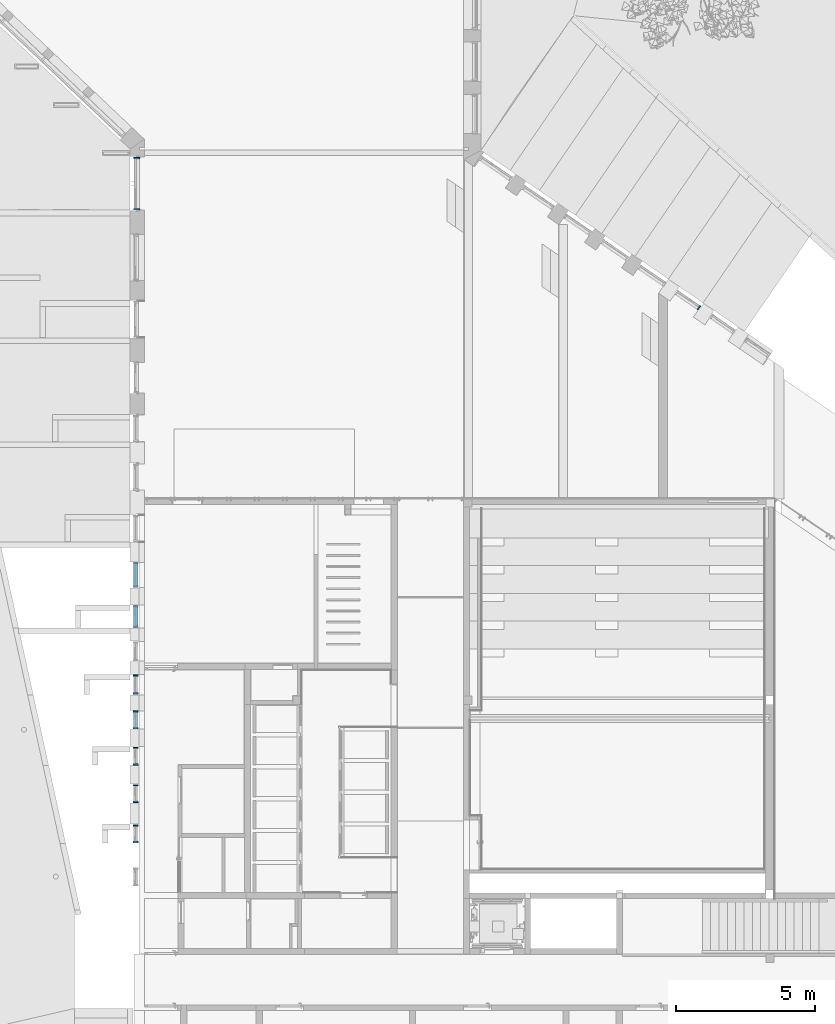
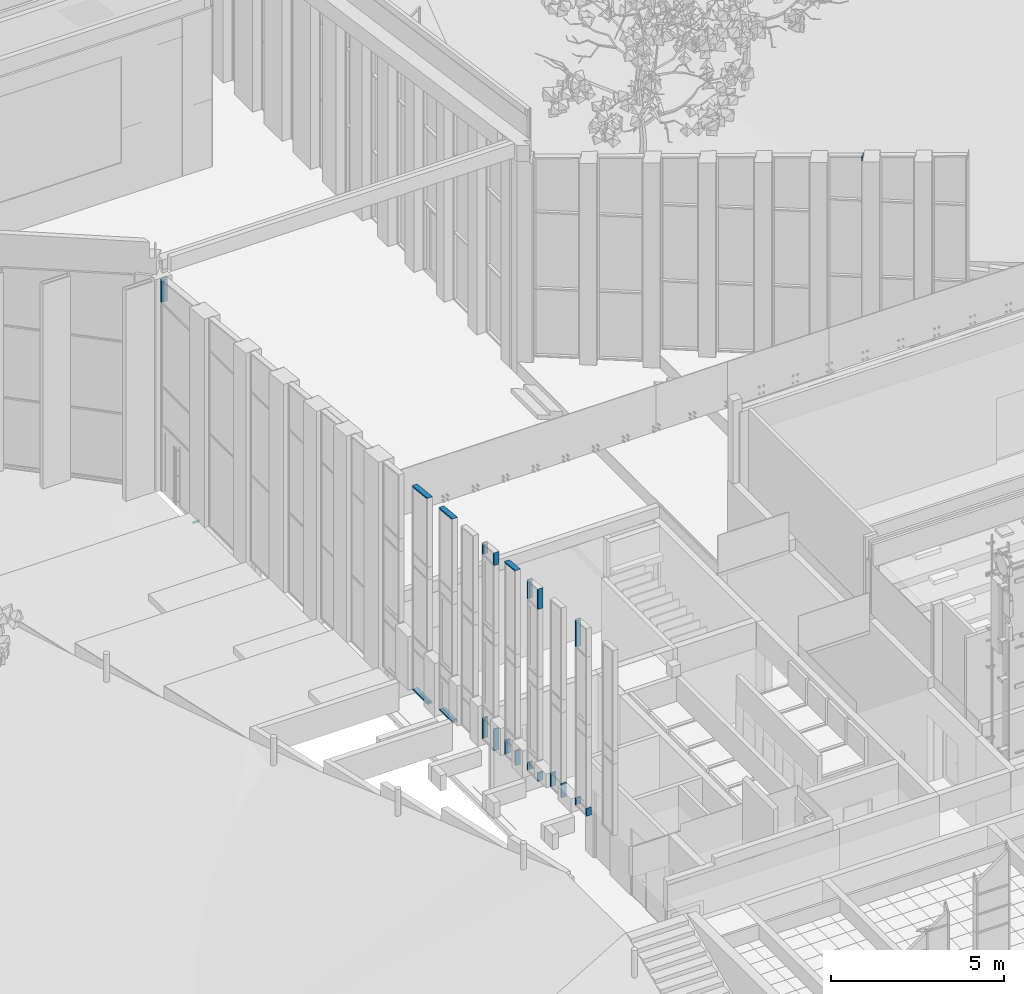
# One storey, part 84 of 246: 23 members, 9 elements without a shape of their own.
"""IFC2X3 building model written with IfcOpenShell, lengths in millimetres."""

from ifc_helpers import new_model, entity, si_unit, converted_unit, derived_unit, money_unit, direction, frame, origin_with_axes, place, context, subcontext, project, spatial, faceted_brep, material, type_object, element, aggregate, save


model = new_model("IFC2X3")

# Units and contexts
model_context = context("Model", 3, precision=0.01, world=origin_with_axes(), true_north=direction((0.0, 1.0)))
body_context = subcontext(model_context, "Body", "Model", "MODEL_VIEW")
ifc_project = project(units=[si_unit("LENGTHUNIT", "METRE", prefix="MILLI"), si_unit("AREAUNIT", "SQUARE_METRE"), si_unit("VOLUMEUNIT", "CUBIC_METRE"), converted_unit("PLANEANGLEUNIT", "DEGREE", entity("IfcPlaneAngleMeasure", 0.0174532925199), si_unit("PLANEANGLEUNIT", "RADIAN"), dimensions=[0, 0, 0, 0, 0, 0, 0]), si_unit("SOLIDANGLEUNIT", "STERADIAN"), money_unit("EUR"), converted_unit("TIMEUNIT", "Year", entity("IfcTimeMeasure", 31556926.0), si_unit("TIMEUNIT", "SECOND"), dimensions=[0, 0, 1, 0, 0, 0, 0]), si_unit("MASSUNIT", "GRAM", prefix="KILO"), si_unit("THERMODYNAMICTEMPERATUREUNIT", "DEGREE_CELSIUS"), si_unit("LUMINOUSINTENSITYUNIT", "LUMEN"), si_unit("ENERGYUNIT", "JOULE", prefix="MEGA"), derived_unit("THERMALCONDUCTANCEUNIT", [(si_unit("POWERUNIT", "WATT"), 1), (si_unit("LENGTHUNIT", "METRE"), -1), (si_unit("THERMODYNAMICTEMPERATUREUNIT", "KELVIN"), -1)]), derived_unit("SPECIFICHEATCAPACITYUNIT", [(si_unit("ENERGYUNIT", "JOULE"), 1), (si_unit("MASSUNIT", "GRAM", prefix="KILO"), -1), (si_unit("THERMODYNAMICTEMPERATUREUNIT", "KELVIN"), -1)]), derived_unit("MASSDENSITYUNIT", [(si_unit("MASSUNIT", "GRAM", prefix="KILO"), 1), (si_unit("VOLUMEUNIT", "CUBIC_METRE"), -1)])], contexts=[model_context])

# Site, building, storey
site_placement = place(None, origin_with_axes())
site = spatial("IfcSite", under=ifc_project, at=site_placement, Name="L.Koidula tn 11b", CompositionType="ELEMENT")
building_placement = place(site_placement, origin_with_axes())
building = spatial("IfcBuilding", under=site, at=building_placement, Name="Rakvere Riigigümnaasium", CompositionType="ELEMENT")
storey_placement = place(building_placement, origin_with_axes())
storey = spatial("IfcBuildingStorey", under=building, at=storey_placement, Name="1.korrus 0,00", CompositionType="ELEMENT", Elevation=0.0)

# Curtain wall, members
curtain_wall_type = type_object("IfcCurtainWallType", Name="Curtain Wall Type", PredefinedType="NOTDEFINED")
curtain_wall_1_placement = place(storey_placement, frame((35156.0871538, 28760.4555979, 1840.0), z_axis=(0.0, 0.0, 1.0), x_axis=(1.0, 0.0, 0.0)))
curtain_wall_1 = element("IfcCurtainWall", 1, at=curtain_wall_1_placement, inside=storey, type_object=curtain_wall_type, Name="KLF-04-02")
ifc_material = material(Name="Alumiiniumprofiil (RAL 7021)")
member_type_1 = type_object("IfcMemberType", Name="Boundary Frame 50 x 170", PredefinedType="MULLION")
member_1_placement = place(curtain_wall_1_placement, frame((0.0, 449.999927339, 0.0), z_axis=(0.0, -1.0, 0.0), x_axis=(0.0, 0.0, 1.0)))
member_1 = element("IfcMember", 2, at=member_1_placement, type_object=member_type_1, material=ifc_material, Name="KLF-04-89-Profiilid", ObjectType="MULLION", context=body_context, shape_type="Brep", body=[
    faceted_brep([(37.0, -26.0, 862.999992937), (37.0, 26.0, 862.999992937), (50.0, 26.0, 849.999992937), (50.0, 46.0, 849.999992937), (0.0, 46.0, 899.999992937), (0.0, -124.0, 899.999992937), (50.0, -124.0, 849.999992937), (50.0, -26.0, 849.999992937), (37.0, -26.0, 37.0), (37.0, 26.0, 37.0), (50.0, 26.0, 50.0), (50.0, 46.0, 50.0), (0.0, 46.0, 0.0), (0.0, -124.0, 0.0), (50.0, -124.0, 50.0), (50.0, -26.0, 50.0)], [[[0, 1, 2, 3, 4, 5, 6, 7]], [[1, 0, 8, 9]], [[10, 2, 1, 9]], [[2, 10, 11, 3]], [[4, 3, 11, 12]], [[5, 4, 12, 13]], [[6, 5, 13, 14]], [[15, 7, 6, 14]], [[0, 7, 15, 8]], [[8, 15, 14, 13, 12, 11, 10, 9]]]),
])
member_2_placement = place(curtain_wall_1_placement, frame((0.0, -449.999546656, 7303.52125875), z_axis=(0.0, 0.994521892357, -0.104528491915), x_axis=(0.0, -0.104528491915, -0.994521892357)))
member_2 = element("IfcMember", 3, at=member_2_placement, type_object=member_type_1, material=ifc_material, Name="KLF-04-95-Profiilid", ObjectType="MULLION", context=body_context, shape_type="Brep", body=[
    faceted_brep([(37.0, -26.0, 871.64197677), (37.0, 26.0, 871.64197677), (50.0, 26.0, 859.936724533), (50.0, 46.0, 859.936724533), (0.0, 46.0, 904.956925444), (0.0, -124.0, 904.956925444), (50.0, -124.0, 859.936724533), (50.0, -26.0, 859.936724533), (37.0, -26.0, 41.0926583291), (37.0, 26.0, 41.0926583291), (50.0, 26.0, 55.5306193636), (50.0, 46.0, 55.5306193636), (0.0, 46.0, 0.0), (0.0, -124.0, 0.0), (50.0, -124.0, 55.5306193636), (50.0, -26.0, 55.5306193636)], [[[0, 1, 2, 3, 4, 5, 6, 7]], [[1, 0, 8, 9]], [[10, 2, 1, 9]], [[2, 10, 11, 3]], [[4, 3, 11, 12]], [[5, 4, 12, 13]], [[6, 5, 13, 14]], [[15, 7, 6, 14]], [[0, 7, 15, 8]], [[8, 15, 14, 13, 12, 11, 10, 9]]]),
])
aggregate(curtain_wall_1, [member_1, member_2])

curtain_wall_2_placement = place(storey_placement, frame((35156.0871538, 27260.4554897, 2070.0), z_axis=(0.0, 0.0, 1.0), x_axis=(1.0, 0.0, 0.0)))
curtain_wall_2 = element("IfcCurtainWall", 4, at=curtain_wall_2_placement, inside=storey, type_object=curtain_wall_type, Name="KLF-04-03")
member_3_placement = place(curtain_wall_2_placement, frame((0.0, 399.999995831, 0.0), z_axis=(0.0, -1.0, 0.0), x_axis=(0.0, 0.0, 1.0)))
member_3 = element("IfcMember", 5, at=member_3_placement, type_object=member_type_1, material=ifc_material, Name="KLF-04-41-Profiilid", ObjectType="MULLION", context=body_context, shape_type="Brep", body=[
    faceted_brep([(37.0, -26.0, 762.999991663), (37.0, 26.0, 762.999991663), (50.0, 26.0, 749.999991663), (50.0, 46.0, 749.999991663), (0.0, 46.0, 799.999991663), (0.0, -124.0, 799.999991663), (50.0, -124.0, 749.999991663), (50.0, -26.0, 749.999991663), (37.0, -26.0, 37.0), (37.0, 26.0, 37.0), (50.0, 26.0, 50.0), (50.0, 46.0, 50.0), (0.0, 46.0, 0.0), (0.0, -124.0, 0.0), (50.0, -124.0, 50.0), (50.0, -26.0, 50.0)], [[[0, 1, 2, 3, 4, 5, 6, 7]], [[1, 0, 8, 9]], [[10, 2, 1, 9]], [[2, 10, 11, 3]], [[4, 3, 11, 12]], [[5, 4, 12, 13]], [[6, 5, 13, 14]], [[15, 7, 6, 14]], [[0, 7, 15, 8]], [[8, 15, 14, 13, 12, 11, 10, 9]]]),
])
member_4_placement = place(curtain_wall_2_placement, frame((0.0, -399.999999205, 7225.92241029), z_axis=(0.0, 0.994521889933, -0.104528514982), x_axis=(0.0, -0.104528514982, -0.994521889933)))
member_4 = element("IfcMember", 6, at=member_4_placement, type_object=member_type_1, material=ifc_material, Name="KLF-04-47-Profiilid", ObjectType="MULLION", context=body_context, shape_type="Brep", body=[
    faceted_brep([(37.0, -26.0, 771.091698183), (37.0, 26.0, 771.091698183), (50.0, 26.0, 759.386446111), (50.0, 46.0, 759.386446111), (0.0, 46.0, 804.406646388), (0.0, -124.0, 804.406646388), (50.0, -124.0, 759.386446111), (50.0, -26.0, 759.386446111), (37.0, -26.0, 41.0926651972), (37.0, 26.0, 41.0926651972), (50.0, 26.0, 55.5306286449), (50.0, 46.0, 55.5306286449), (0.0, 46.0, 0.0), (0.0, -124.0, 0.0), (50.0, -124.0, 55.5306286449), (50.0, -26.0, 55.5306286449)], [[[0, 1, 2, 3, 4, 5, 6, 7]], [[1, 0, 8, 9]], [[10, 2, 1, 9]], [[2, 10, 11, 3]], [[4, 3, 11, 12]], [[5, 4, 12, 13]], [[6, 5, 13, 14]], [[15, 7, 6, 14]], [[0, 7, 15, 8]], [[8, 15, 14, 13, 12, 11, 10, 9]]]),
])
aggregate(curtain_wall_2, [member_3, member_4])

# Curtain wall, member
curtain_wall_3_placement = place(storey_placement, frame((55097.3440674, 38688.315244, 1395.00000109), z_axis=(0.0, 0.0, 1.0), x_axis=(1.0, 0.0, 0.0)))
curtain_wall_3 = element("IfcCurtainWall", 7, at=curtain_wall_3_placement, inside=storey, type_object=curtain_wall_type, Name="KLF-06-24")
member_5_placement = place(curtain_wall_3_placement, frame((418.104968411, -286.768608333, 6506.85188252), z_axis=(2.80478067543e-07, -1.9237346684e-07, 1.0), x_axis=(-0.824666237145, 0.565619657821, 3.40111007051e-07)))
member_5 = element("IfcMember", 8, at=member_5_placement, type_object=member_type_1, material=ifc_material, Name="KLF-06-43-Profiilid", ObjectType="MULLION", context=body_context, shape_type="Brep", body=[
    faceted_brep([(37.0000444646, 26.0, 130.735491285), (50.0000397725, 26.0, 116.939865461), (50.0000397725, 124.0, 116.939865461), (5.78188590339e-05, 124.0, 169.999964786), (5.78188519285e-05, -46.0, 169.999964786), (50.0000397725, -46.0, 116.939865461), (50.0000397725, -26.0, 116.939865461), (37.0000444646, -26.0, 130.735491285), (36.9999999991, 26.0, -0.00265288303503), (49.9999999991, 26.0, -0.00265730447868), (49.9999999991, 124.0, -0.00265730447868), (-8.95283847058e-10, 124.0, -0.00264029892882), (-9.02389274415e-10, -46.0, -0.00264029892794), (49.9999999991, -46.0, -0.00265730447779), (49.9999999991, -26.0, -0.00265730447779), (36.9999999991, -26.0, -0.00265288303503)], [[[0, 1, 2, 3, 4, 5, 6, 7]], [[0, 8, 9, 1]], [[9, 10, 2, 1]], [[10, 11, 3, 2]], [[11, 12, 4, 3]], [[12, 13, 5, 4]], [[6, 5, 13, 14]], [[14, 15, 7, 6]], [[7, 15, 8, 0]], [[8, 15, 14, 13, 12, 11, 10, 9]]]),
])
aggregate(curtain_wall_3, [member_5])

# Curtain wall, members
curtain_wall_4_placement = place(storey_placement, frame((35156.0871538, 22235.4555038, 3003.0), z_axis=(0.0, 0.0, 1.0), x_axis=(1.0, 0.0, 0.0)))
curtain_wall_4 = element("IfcCurtainWall", 9, at=curtain_wall_4_placement, inside=storey, type_object=curtain_wall_type, Name="KLF-04-07")
member_6_placement = place(curtain_wall_4_placement, frame((0.0, 325.000046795, 297.00007113), z_axis=(0.0, -1.46815438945e-07, -1.0), x_axis=(0.0, -1.0, 1.46815438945e-07)))
member_6 = element("IfcMember", 10, at=member_6_placement, type_object=member_type_1, material=ifc_material, Name="KLF-04-23-Profiilid", ObjectType="MULLION", context=body_context, shape_type="Brep", body=[
    faceted_brep([(37.0, -26.0, 260.000076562), (37.0, 26.0, 260.000076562), (50.0, 26.0, 247.000078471), (50.0, 46.0, 247.000078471), (0.0, 46.0, 297.00007113), (0.0, -124.0, 297.00007113), (50.0, -124.0, 247.000078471), (50.0, -26.0, 247.000078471), (37.0, -26.0, -3.67038599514e-06), (37.0, 26.0, -3.67038599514e-06), (50.0, 26.0, -3.67038596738e-06), (50.0, 46.0, -3.67038596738e-06), (0.0, 46.0, -3.67038596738e-06), (0.0, -124.0, -3.67038596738e-06), (50.0, -124.0, -3.67038596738e-06), (50.0, -26.0, -3.67038596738e-06)], [[[0, 1, 2, 3, 4, 5, 6, 7]], [[1, 0, 8, 9]], [[10, 2, 1, 9]], [[2, 10, 11, 3]], [[12, 4, 3, 11]], [[13, 5, 4, 12]], [[14, 6, 5, 13]], [[15, 7, 6, 14]], [[0, 7, 15, 8]], [[8, 15, 14, 13, 12, 11, 10, 9]]]),
])
member_7_placement = place(curtain_wall_4_placement, frame((0.0, 325.000104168, 6744.87057889), z_axis=(0.0, -2.46302557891e-07, -1.0), x_axis=(0.0, -1.0, 2.46302557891e-07)))
member_7 = element("IfcMember", 11, at=member_7_placement, type_object=member_type_1, material=ifc_material, Name="KLF-04-32-Profiilid", ObjectType="MULLION", context=body_context, shape_type="Brep", body=[
    faceted_brep([(37.0, -26.0, 657.870513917), (37.0, 26.0, 657.870513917), (50.0, 26.0, 657.870513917), (50.0, 46.0, 657.870513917), (0.0, 46.0, 657.870513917), (0.0, -124.0, 657.870513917), (50.0, -124.0, 657.870513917), (50.0, -26.0, 657.870513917), (37.0, -26.0, 33.3149533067), (37.0, 26.0, 33.3149533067), (50.0, 26.0, 45.0202071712), (50.0, 46.0, 45.0202071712), (0.0, 46.0, 0.0), (0.0, -124.0, 0.0), (50.0, -124.0, 45.0202071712), (50.0, -26.0, 45.0202071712)], [[[0, 1, 2, 3, 4, 5, 6, 7]], [[1, 0, 8, 9]], [[10, 2, 1, 9]], [[2, 10, 11, 3]], [[4, 3, 11, 12]], [[5, 4, 12, 13]], [[6, 5, 13, 14]], [[15, 7, 6, 14]], [[0, 7, 15, 8]], [[8, 15, 14, 13, 12, 11, 10, 9]]]),
])
member_8_placement = place(curtain_wall_4_placement, frame((0.0, -324.999882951, 6087.00007113), z_axis=(0.0, 0.0, 1.0), x_axis=(0.0, 1.0, 0.0)))
member_8 = element("IfcMember", 12, at=member_8_placement, type_object=member_type_1, material=ifc_material, Name="KLF-04-30-Profiilid", ObjectType="MULLION", context=body_context, shape_type="Brep", body=[
    faceted_brep([(37.0, -26.0, 685.09568054), (37.0, 26.0, 685.09568054), (50.0, 26.0, 670.657715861), (50.0, 46.0, 670.657715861), (0.0, 46.0, 726.188349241), (0.0, -124.0, 726.188349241), (50.0, -124.0, 670.657715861), (50.0, -26.0, 670.657715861), (37.0, -26.0, -4.25497526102e-07), (37.0, 26.0, -4.25497526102e-07), (50.0, 26.0, -4.25497581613e-07), (50.0, 46.0, -4.25497581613e-07), (0.0, 46.0, -4.25497581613e-07), (0.0, -124.0, -4.25497581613e-07), (50.0, -124.0, -4.25497581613e-07), (50.0, -26.0, -4.25497581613e-07)], [[[0, 1, 2, 3, 4, 5, 6, 7]], [[1, 0, 8, 9]], [[10, 2, 1, 9]], [[2, 10, 11, 3]], [[12, 4, 3, 11]], [[13, 5, 4, 12]], [[14, 6, 5, 13]], [[15, 7, 6, 14]], [[0, 7, 15, 8]], [[8, 15, 14, 13, 12, 11, 10, 9]]]),
])
member_9_placement = place(curtain_wall_4_placement, frame((0.0, -325.000024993, 0.0), z_axis=(0.0, 0.0, 1.0), x_axis=(0.0, 1.0, 0.0)))
member_9 = element("IfcMember", 13, at=member_9_placement, type_object=member_type_1, material=ifc_material, Name="KLF-04-25-Profiilid", ObjectType="MULLION", context=body_context, shape_type="Brep", body=[
    faceted_brep([(37.0, -26.0, 297.00007113), (37.0, 26.0, 297.00007113), (50.0, 26.0, 297.00007113), (50.0, 46.0, 297.00007113), (0.0, 46.0, 297.00007113), (0.0, -124.0, 297.00007113), (50.0, -124.0, 297.00007113), (50.0, -26.0, 297.00007113), (37.0, -26.0, 37.0), (37.0, 26.0, 37.0), (50.0, 26.0, 50.0), (50.0, 46.0, 50.0), (0.0, 46.0, 0.0), (0.0, -124.0, 0.0), (50.0, -124.0, 50.0), (50.0, -26.0, 50.0)], [[[0, 1, 2, 3, 4, 5, 6, 7]], [[1, 0, 8, 9]], [[10, 2, 1, 9]], [[2, 10, 11, 3]], [[4, 3, 11, 12]], [[5, 4, 12, 13]], [[6, 5, 13, 14]], [[15, 7, 6, 14]], [[0, 7, 15, 8]], [[8, 15, 14, 13, 12, 11, 10, 9]]]),
])
aggregate(curtain_wall_4, [member_6, member_7, member_8, member_9])

curtain_wall_5_placement = place(storey_placement, frame((35156.0871538, 20885.4555022, 3234.99992887), z_axis=(0.0, 0.0, 1.0), x_axis=(1.0, 0.0, 0.0)))
curtain_wall_5 = element("IfcCurtainWall", 14, at=curtain_wall_5_placement, inside=storey, type_object=curtain_wall_type, Name="KLF-04-08")
member_10_placement = place(curtain_wall_5_placement, frame((0.0, 324.999978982, 510.00007113), z_axis=(0.0, 0.0, -1.0), x_axis=(0.0, -1.0, 0.0)))
member_10 = element("IfcMember", 15, at=member_10_placement, type_object=member_type_1, material=ifc_material, Name="KLF-04-49-Profiilid", ObjectType="MULLION", context=body_context, shape_type="Brep", body=[
    faceted_brep([(37.0, -26.0, 473.00007113), (37.0, 26.0, 473.00007113), (50.0, 26.0, 460.00007113), (50.0, 46.0, 460.00007113), (0.0, 46.0, 510.00007113), (0.0, -124.0, 510.00007113), (50.0, -124.0, 460.00007113), (50.0, -26.0, 460.00007113), (37.0, -26.0, 0.0), (37.0, 26.0, 0.0), (50.0, 26.0, 0.0), (50.0, 46.0, 0.0), (0.0, 46.0, 0.0), (0.0, -124.0, 0.0), (50.0, -124.0, 0.0), (50.0, -26.0, 0.0)], [[[0, 1, 2, 3, 4, 5, 6, 7]], [[1, 0, 8, 9]], [[10, 2, 1, 9]], [[2, 10, 11, 3]], [[12, 4, 3, 11]], [[13, 5, 4, 12]], [[14, 6, 5, 13]], [[15, 7, 6, 14]], [[0, 7, 15, 8]], [[8, 15, 14, 13, 12, 11, 10, 9]]]),
])
member_11_placement = place(curtain_wall_5_placement, frame((0.0, -325.000001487, 0.0), z_axis=(0.0, 0.0, 1.0), x_axis=(0.0, 1.0, 0.0)))
member_11 = element("IfcMember", 16, at=member_11_placement, type_object=member_type_1, material=ifc_material, Name="KLF-04-51-Profiilid", ObjectType="MULLION", context=body_context, shape_type="Brep", body=[
    faceted_brep([(37.0, -26.0, 510.00007113), (37.0, 26.0, 510.00007113), (50.0, 26.0, 510.00007113), (50.0, 46.0, 510.00007113), (0.0, 46.0, 510.00007113), (0.0, -124.0, 510.00007113), (50.0, -124.0, 510.00007113), (50.0, -26.0, 510.00007113), (37.0, -26.0, 37.0), (37.0, 26.0, 37.0), (50.0, 26.0, 50.0), (50.0, 46.0, 50.0), (0.0, 46.0, 0.0), (0.0, -124.0, 0.0), (50.0, -124.0, 50.0), (50.0, -26.0, 50.0)], [[[0, 1, 2, 3, 4, 5, 6, 7]], [[1, 0, 8, 9]], [[10, 2, 1, 9]], [[2, 10, 11, 3]], [[4, 3, 11, 12]], [[5, 4, 12, 13]], [[6, 5, 13, 14]], [[15, 7, 6, 14]], [[0, 7, 15, 8]], [[8, 15, 14, 13, 12, 11, 10, 9]]]),
])
aggregate(curtain_wall_5, [member_10, member_11])

curtain_wall_6_placement = place(storey_placement, frame((35156.0871538, 19435.4554934, 3468.0), z_axis=(0.0, 0.0, 1.0), x_axis=(1.0, 0.0, 0.0)))
curtain_wall_6 = element("IfcCurtainWall", 17, at=curtain_wall_6_placement, inside=storey, type_object=curtain_wall_type, Name="KLF-04-09")
member_12_placement = place(curtain_wall_6_placement, frame((0.0, 325.0000746, 277.00007113), z_axis=(0.0, 0.0, -1.0), x_axis=(0.0, -1.0, 0.0)))
member_12 = element("IfcMember", 18, at=member_12_placement, type_object=member_type_1, material=ifc_material, Name="KLF-04-97-Profiilid", ObjectType="MULLION", context=body_context, shape_type="Brep", body=[
    faceted_brep([(37.0, -26.0, 240.00007113), (37.0, 26.0, 240.00007113), (50.0, 26.0, 227.00007113), (50.0, 46.0, 227.00007113), (0.0, 46.0, 277.00007113), (0.0, -124.0, 277.00007113), (50.0, -124.0, 227.00007113), (50.0, -26.0, 227.00007113), (37.0, -26.0, 0.0), (37.0, 26.0, 0.0), (50.0, 26.0, 0.0), (50.0, 46.0, 0.0), (0.0, 46.0, 0.0), (0.0, -124.0, 0.0), (50.0, -124.0, 0.0), (50.0, -26.0, 0.0)], [[[0, 1, 2, 3, 4, 5, 6, 7]], [[1, 0, 8, 9]], [[10, 2, 1, 9]], [[2, 10, 11, 3]], [[12, 4, 3, 11]], [[13, 5, 4, 12]], [[14, 6, 5, 13]], [[15, 7, 6, 14]], [[0, 7, 15, 8]], [[8, 15, 14, 13, 12, 11, 10, 9]]]),
])
member_13_placement = place(curtain_wall_6_placement, frame((0.0, 325.000018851, 6574.16250965), z_axis=(0.0, 5.85500087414e-08, -1.0), x_axis=(0.0, -1.0, -5.85500087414e-08)))
member_13 = element("IfcMember", 19, at=member_13_placement, type_object=member_type_1, material=ifc_material, Name="KLF-04-05-Profiilid", ObjectType="MULLION", context=body_context, shape_type="Brep", body=[
    faceted_brep([(37.0, -26.0, 952.162439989), (37.0, 26.0, 952.162439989), (50.0, 26.0, 952.162439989), (50.0, 46.0, 952.162439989), (0.0, 46.0, 952.162439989), (0.0, -124.0, 952.162439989), (50.0, -124.0, 952.162439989), (50.0, -26.0, 952.162439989), (37.0, -26.0, 33.314945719), (37.0, 26.0, 33.314945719), (50.0, 26.0, 45.0201969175), (50.0, 46.0, 45.0201969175), (0.0, 46.0, 0.0), (0.0, -124.0, 0.0), (50.0, -124.0, 45.0201969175), (50.0, -26.0, 45.0201969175)], [[[0, 1, 2, 3, 4, 5, 6, 7]], [[1, 0, 8, 9]], [[10, 2, 1, 9]], [[2, 10, 11, 3]], [[4, 3, 11, 12]], [[5, 4, 12, 13]], [[6, 5, 13, 14]], [[15, 7, 6, 14]], [[0, 7, 15, 8]], [[8, 15, 14, 13, 12, 11, 10, 9]]]),
])
member_14_placement = place(curtain_wall_6_placement, frame((0.0, -325.000027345, 0.0), z_axis=(0.0, 0.0, 1.0), x_axis=(0.0, 1.0, 0.0)))
member_14 = element("IfcMember", 20, at=member_14_placement, type_object=member_type_1, material=ifc_material, Name="KLF-04-99-Profiilid", ObjectType="MULLION", context=body_context, shape_type="Brep", body=[
    faceted_brep([(37.0, -26.0, 277.00007113), (37.0, 26.0, 277.00007113), (50.0, 26.0, 277.00007113), (50.0, 46.0, 277.00007113), (0.0, 46.0, 277.00007113), (0.0, -124.0, 277.00007113), (50.0, -124.0, 277.00007113), (50.0, -26.0, 277.00007113), (37.0, -26.0, 37.0), (37.0, 26.0, 37.0), (50.0, 26.0, 50.0), (50.0, 46.0, 50.0), (0.0, 46.0, 0.0), (0.0, -124.0, 0.0), (50.0, -124.0, 50.0), (50.0, -26.0, 50.0)], [[[0, 1, 2, 3, 4, 5, 6, 7]], [[1, 0, 8, 9]], [[10, 2, 1, 9]], [[2, 10, 11, 3]], [[4, 3, 11, 12]], [[5, 4, 12, 13]], [[6, 5, 13, 14]], [[15, 7, 6, 14]], [[0, 7, 15, 8]], [[8, 15, 14, 13, 12, 11, 10, 9]]]),
])
aggregate(curtain_wall_6, [member_12, member_13, member_14])

curtain_wall_7_placement = place(storey_placement, frame((35156.0871538, 24810.4554726, 2540.0), z_axis=(0.0, 0.0, 1.0), x_axis=(1.0, 0.0, 0.0)))
curtain_wall_7 = element("IfcCurtainWall", 21, at=curtain_wall_7_placement, inside=storey, type_object=curtain_wall_type, Name="KLF-04-05")
member_15_placement = place(curtain_wall_7_placement, frame((0.0, 350.000000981, 760.00005204), z_axis=(0.0, 0.0, -1.0), x_axis=(0.0, -1.0, 0.0)))
member_15 = element("IfcMember", 22, at=member_15_placement, type_object=member_type_1, material=ifc_material, Name="KLF-04-48-Profiilid", ObjectType="MULLION", context=body_context, shape_type="Brep", body=[
    faceted_brep([(37.0, -26.0, 723.00005204), (37.0, 26.0, 723.00005204), (50.0, 26.0, 710.00005204), (50.0, 46.0, 710.00005204), (0.0, 46.0, 760.00005204), (0.0, -124.0, 760.00005204), (50.0, -124.0, 710.00005204), (50.0, -26.0, 710.00005204), (37.0, -26.0, 0.0), (37.0, 26.0, 0.0), (50.0, 26.0, 0.0), (50.0, 46.0, 0.0), (0.0, 46.0, 0.0), (0.0, -124.0, 0.0), (50.0, -124.0, 0.0), (50.0, -26.0, 0.0)], [[[0, 1, 2, 3, 4, 5, 6, 7]], [[1, 0, 8, 9]], [[10, 2, 1, 9]], [[2, 10, 11, 3]], [[12, 4, 3, 11]], [[13, 5, 4, 12]], [[14, 6, 5, 13]], [[15, 7, 6, 14]], [[0, 7, 15, 8]], [[8, 15, 14, 13, 12, 11, 10, 9]]]),
])
member_16_placement = place(curtain_wall_7_placement, frame((0.0, 350.000025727, 6934.59964201), z_axis=(0.0, -6.4344396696e-08, -1.0), x_axis=(0.0, -1.0, 6.4344396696e-08)))
member_16 = element("IfcMember", 23, at=member_16_placement, type_object=member_type_1, material=ifc_material, Name="KLF-04-57-Profiilid", ObjectType="MULLION", context=body_context, shape_type="Brep", body=[
    faceted_brep([(37.0, -26.0, 384.599591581), (37.0, 26.0, 384.599591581), (50.0, 26.0, 384.599591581), (50.0, 46.0, 384.599591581), (0.0, 46.0, 384.599591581), (0.0, -124.0, 384.599591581), (50.0, -124.0, 384.599591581), (50.0, -26.0, 384.599591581), (37.0, -26.0, 33.3149522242), (37.0, 26.0, 33.3149522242), (50.0, 26.0, 45.0202057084), (50.0, 46.0, 45.0202057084), (0.0, 46.0, 0.0), (0.0, -124.0, 0.0), (50.0, -124.0, 45.0202057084), (50.0, -26.0, 45.0202057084)], [[[0, 1, 2, 3, 4, 5, 6, 7]], [[1, 0, 8, 9]], [[10, 2, 1, 9]], [[2, 10, 11, 3]], [[4, 3, 11, 12]], [[5, 4, 12, 13]], [[6, 5, 13, 14]], [[15, 7, 6, 14]], [[0, 7, 15, 8]], [[8, 15, 14, 13, 12, 11, 10, 9]]]),
])
member_17_placement = place(curtain_wall_7_placement, frame((0.0, -349.999983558, 6550.00005204), z_axis=(0.0, 0.0, 1.0), x_axis=(0.0, 1.0, 0.0)))
member_17 = element("IfcMember", 24, at=member_17_placement, type_object=member_type_1, material=ifc_material, Name="KLF-04-55-Profiilid", ObjectType="MULLION", context=body_context, shape_type="Brep", body=[
    faceted_brep([(37.0, -26.0, 417.079884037), (37.0, 26.0, 417.079884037), (50.0, 26.0, 402.64192153), (50.0, 46.0, 402.64192153), (0.0, 46.0, 458.172546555), (0.0, -124.0, 458.172546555), (50.0, -124.0, 402.64192153), (50.0, -26.0, 402.64192153), (37.0, -26.0, -1.81482384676e-07), (37.0, 26.0, -1.81482384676e-07), (50.0, 26.0, -1.81482384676e-07), (50.0, 46.0, -1.81482384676e-07), (0.0, 46.0, -1.81482384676e-07), (0.0, -124.0, -1.81482384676e-07), (50.0, -124.0, -1.81482384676e-07), (50.0, -26.0, -1.81482384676e-07)], [[[0, 1, 2, 3, 4, 5, 6, 7]], [[1, 0, 8, 9]], [[10, 2, 1, 9]], [[2, 10, 11, 3]], [[12, 4, 3, 11]], [[13, 5, 4, 12]], [[14, 6, 5, 13]], [[15, 7, 6, 14]], [[0, 7, 15, 8]], [[8, 15, 14, 13, 12, 11, 10, 9]]]),
])
member_18_placement = place(curtain_wall_7_placement, frame((0.0, -350.000000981, 0.0), z_axis=(0.0, 0.0, 1.0), x_axis=(0.0, 1.0, 0.0)))
member_18 = element("IfcMember", 25, at=member_18_placement, type_object=member_type_1, material=ifc_material, Name="KLF-04-50-Profiilid", ObjectType="MULLION", context=body_context, shape_type="Brep", body=[
    faceted_brep([(37.0, -26.0, 760.00005204), (37.0, 26.0, 760.00005204), (50.0, 26.0, 760.00005204), (50.0, 46.0, 760.00005204), (0.0, 46.0, 760.00005204), (0.0, -124.0, 760.00005204), (50.0, -124.0, 760.00005204), (50.0, -26.0, 760.00005204), (37.0, -26.0, 37.0), (37.0, 26.0, 37.0), (50.0, 26.0, 50.0), (50.0, 46.0, 50.0), (0.0, 46.0, 0.0), (0.0, -124.0, 0.0), (50.0, -124.0, 50.0), (50.0, -26.0, 50.0)], [[[0, 1, 2, 3, 4, 5, 6, 7]], [[1, 0, 8, 9]], [[10, 2, 1, 9]], [[2, 10, 11, 3]], [[4, 3, 11, 12]], [[5, 4, 12, 13]], [[6, 5, 13, 14]], [[15, 7, 6, 14]], [[0, 7, 15, 8]], [[8, 15, 14, 13, 12, 11, 10, 9]]]),
])
aggregate(curtain_wall_7, [member_15, member_16, member_17, member_18])

curtain_wall_8_placement = place(storey_placement, frame((35156.0871538, 23535.4555553, 2770.0), z_axis=(0.0, 0.0, 1.0), x_axis=(1.0, 0.0, 0.0)))
curtain_wall_8 = element("IfcCurtainWall", 26, at=curtain_wall_8_placement, inside=storey, type_object=curtain_wall_type, Name="KLF-04-06")
member_19_placement = place(curtain_wall_8_placement, frame((0.0, 324.999949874, 530.00005204), z_axis=(0.0, 0.0, -1.0), x_axis=(0.0, -1.0, 0.0)))
member_19 = element("IfcMember", 27, at=member_19_placement, type_object=member_type_1, material=ifc_material, Name="KLF-04-43-Profiilid", ObjectType="MULLION", context=body_context, shape_type="Brep", body=[
    faceted_brep([(37.0, -26.0, 493.00005204), (37.0, 26.0, 493.00005204), (50.0, 26.0, 480.00005204), (50.0, 46.0, 480.00005204), (0.0, 46.0, 530.00005204), (0.0, -124.0, 530.00005204), (50.0, -124.0, 480.00005204), (50.0, -26.0, 480.00005204), (37.0, -26.0, 0.0), (37.0, 26.0, 0.0), (50.0, 26.0, 0.0), (50.0, 46.0, 0.0), (0.0, 46.0, 0.0), (0.0, -124.0, 0.0), (50.0, -124.0, 0.0), (50.0, -26.0, 0.0)], [[[0, 1, 2, 3, 4, 5, 6, 7]], [[1, 0, 8, 9]], [[10, 2, 1, 9]], [[2, 10, 11, 3]], [[12, 4, 3, 11]], [[13, 5, 4, 12]], [[14, 6, 5, 13]], [[15, 7, 6, 14]], [[0, 7, 15, 8]], [[8, 15, 14, 13, 12, 11, 10, 9]]]),
])
member_20_placement = place(curtain_wall_8_placement, frame((0.0, -324.999949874, 0.0), z_axis=(0.0, 0.0, 1.0), x_axis=(0.0, 1.0, 0.0)))
member_20 = element("IfcMember", 28, at=member_20_placement, type_object=member_type_1, material=ifc_material, Name="KLF-04-45-Profiilid", ObjectType="MULLION", context=body_context, shape_type="Brep", body=[
    faceted_brep([(37.0, -26.0, 530.00005204), (37.0, 26.0, 530.00005204), (50.0, 26.0, 530.00005204), (50.0, 46.0, 530.00005204), (0.0, 46.0, 530.00005204), (0.0, -124.0, 530.00005204), (50.0, -124.0, 530.00005204), (50.0, -26.0, 530.00005204), (37.0, -26.0, 37.0), (37.0, 26.0, 37.0), (50.0, 26.0, 50.0), (50.0, 46.0, 50.0), (0.0, 46.0, 0.0), (0.0, -124.0, 0.0), (50.0, -124.0, 50.0), (50.0, -26.0, 50.0)], [[[0, 1, 2, 3, 4, 5, 6, 7]], [[1, 0, 8, 9]], [[10, 2, 1, 9]], [[2, 10, 11, 3]], [[4, 3, 11, 12]], [[5, 4, 12, 13]], [[6, 5, 13, 14]], [[15, 7, 6, 14]], [[0, 7, 15, 8]], [[8, 15, 14, 13, 12, 11, 10, 9]]]),
])
member_21_placement = place(curtain_wall_8_placement, frame((0.0, -325.000349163, 6909.55295649), z_axis=(0.0, 0.994521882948, -0.104528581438), x_axis=(0.0, -0.104528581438, -0.994521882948)))
member_21 = element("IfcMember", 29, at=member_21_placement, type_object=member_type_1, material=ifc_material, Name="KLF-04-50-Profiilid", ObjectType="MULLION", context=body_context, shape_type="Brep", body=[
    faceted_brep([(37.0, -26.0, 620.265725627), (37.0, 26.0, 620.265725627), (50.0, 26.0, 608.560474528), (50.0, 46.0, 608.560474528), (0.0, 46.0, 653.580671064), (0.0, -124.0, 653.580671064), (50.0, -124.0, 608.560474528), (50.0, -26.0, 608.560474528), (37.0, -26.0, 41.0926728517), (37.0, 26.0, 41.0926728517), (50.0, 26.0, 55.5306389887), (50.0, 46.0, 55.5306389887), (0.0, 46.0, 0.0), (0.0, -124.0, 0.0), (50.0, -124.0, 55.5306389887), (50.0, -26.0, 55.5306389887)], [[[0, 1, 2, 3, 4, 5, 6, 7]], [[1, 0, 8, 9]], [[10, 2, 1, 9]], [[2, 10, 11, 3]], [[4, 3, 11, 12]], [[5, 4, 12, 13]], [[6, 5, 13, 14]], [[15, 7, 6, 14]], [[0, 7, 15, 8]], [[8, 15, 14, 13, 12, 11, 10, 9]]]),
])
aggregate(curtain_wall_8, [member_19, member_20, member_21])

curtain_wall_9_placement = place(storey_placement, frame((35176.0871233, 42850.4555755, -0.000136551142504), z_axis=(0.0, 0.0, 1.0), x_axis=(1.0, 0.0, 0.0)))
curtain_wall_9 = element("IfcCurtainWall", 30, at=curtain_wall_9_placement, inside=storey, type_object=curtain_wall_type, Name="KLF-03-01")
member_type_2 = type_object("IfcMemberType", Name="Boundary Frame 50 x 210", PredefinedType="MULLION")
member_22_placement = place(curtain_wall_9_placement, frame((0.0, 949.999916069, 6690.00012036), z_axis=(0.0, 0.0, 1.0), x_axis=(0.0, 1.0, 0.0)))
member_22 = element("IfcMember", 31, at=member_22_placement, type_object=member_type_2, material=ifc_material, Name="KLF-03-17-Profiilid", ObjectType="MULLION", context=body_context, shape_type="Brep", body=[
    faceted_brep([(-37.0, -26.0, 792.141805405), (-50.0, -26.0, 780.436552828), (-50.0, -154.0, 780.436552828), (0.0, -154.0, 825.456755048), (0.0, 56.0, 825.456755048), (-50.0, 56.0, 780.436552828), (-50.0, 26.0, 780.436552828), (-37.0, 26.0, 792.141805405), (-37.0, -26.0, 0.0), (-50.0, -26.0, 0.0), (-50.0, -154.0, 0.0), (0.0, -154.0, 0.0), (0.0, 56.0, 0.0), (-50.0, 56.0, 0.0), (-50.0, 26.0, 0.0), (-37.0, 26.0, 0.0)], [[[0, 1, 2, 3, 4, 5, 6, 7]], [[0, 8, 9, 1]], [[9, 10, 2, 1]], [[10, 11, 3, 2]], [[11, 12, 4, 3]], [[12, 13, 5, 4]], [[6, 5, 13, 14]], [[14, 15, 7, 6]], [[7, 15, 8, 0]], [[8, 15, 14, 13, 12, 11, 10, 9]]]),
])
member_23_placement = place(curtain_wall_9_placement, frame((0.0, -909.999928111, 0.0), z_axis=(0.0, -1.0, 0.0), x_axis=(0.0, 0.0, 1.0)))
member_23 = element("IfcMember", 32, at=member_23_placement, type_object=member_type_2, material=ifc_material, Name="KLF-03-11-Profiilid", ObjectType="MULLION", context=body_context, shape_type="Brep", body=[
    faceted_brep([(37.0, -26.0, 2.99994795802), (37.0, 26.0, 2.99994795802), (39.999947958, 26.0, 0.0), (39.999947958, 56.0, 0.0), (0.0, 56.0, 39.999947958), (0.0, -154.0, 39.999947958), (39.999947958, -154.0, 0.0), (39.999947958, -26.0, 0.0), (37.0, -26.0, 0.0), (37.0, 26.0, 0.0), (0.0, -154.0, 0.0), (0.0, 56.0, 0.0)], [[[0, 1, 2, 3, 4, 5, 6, 7]], [[1, 0, 8, 9]], [[9, 2, 1]], [[8, 7, 6, 10, 11, 3, 2, 9]], [[3, 11, 4]], [[10, 5, 4, 11]], [[10, 6, 5]], [[0, 7, 8]]]),
])
aggregate(curtain_wall_9, [member_22, member_23])

save(model, "model.ifc")
